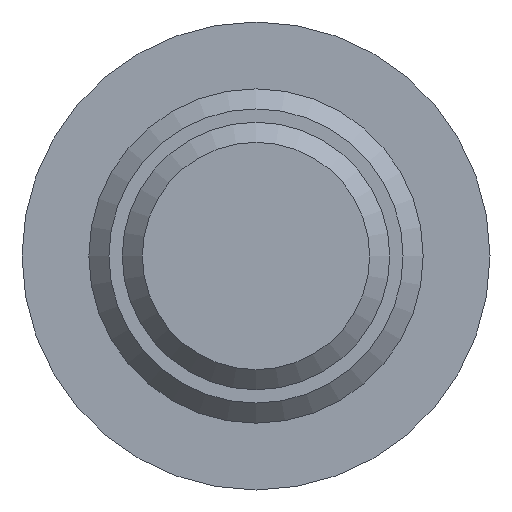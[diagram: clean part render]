
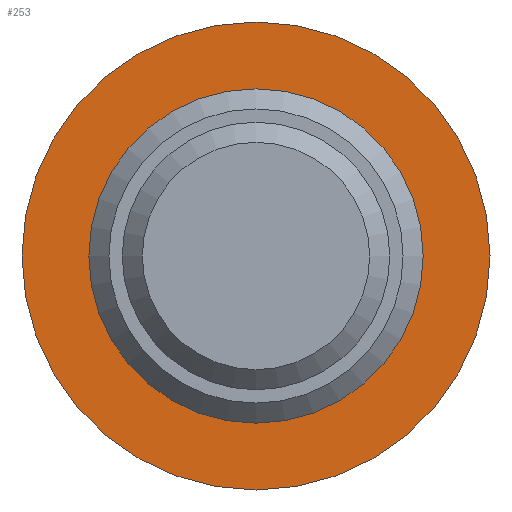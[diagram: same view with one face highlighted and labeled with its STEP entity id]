
A CAD part, front view. The second image highlights one B-rep face of the part: STEP entity #253.
In plain terms, the highlighted planar face has unit normal (0, -1, 0).
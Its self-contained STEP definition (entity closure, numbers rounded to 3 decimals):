
#101=CARTESIAN_POINT('',(-3.5,24.,0.0));
#102=VERTEX_POINT('',#101);
#103=CARTESIAN_POINT('',(0.0,24.,0.0));
#104=DIRECTION('',(0.0,1.0,0.0));
#105=DIRECTION('',(-1.0,0.0,0.0));
#106=AXIS2_PLACEMENT_3D('',#103,#104,#105);
#107=CIRCLE('',#106,3.5);
#108=EDGE_CURVE('',#102,#102,#107,.T.);
#178=CARTESIAN_POINT('',(-2.5,24.,0.0));
#179=VERTEX_POINT('',#178);
#180=CARTESIAN_POINT('',(0.0,24.,0.0));
#181=DIRECTION('',(0.0,1.0,0.0));
#182=DIRECTION('',(-1.0,0.0,0.0));
#183=AXIS2_PLACEMENT_3D('',#180,#181,#182);
#184=CIRCLE('',#183,2.5);
#185=EDGE_CURVE('',#179,#179,#184,.T.);
#242=CARTESIAN_POINT('',(-3.0,24.,0.0));
#243=DIRECTION('',(0.0,-1.0,0.0));
#244=DIRECTION('',(0.0,0.0,-1.0));
#245=AXIS2_PLACEMENT_3D('',#242,#243,#244);
#246=PLANE('',#245);
#247=ORIENTED_EDGE('',*,*,#108,.F.);
#248=EDGE_LOOP('',(#247));
#249=FACE_OUTER_BOUND('',#248,.T.);
#250=ORIENTED_EDGE('',*,*,#185,.T.);
#251=EDGE_LOOP('',(#250));
#252=FACE_BOUND('',#251,.T.);
#253=ADVANCED_FACE('',(#249,#252),#246,.T.);
